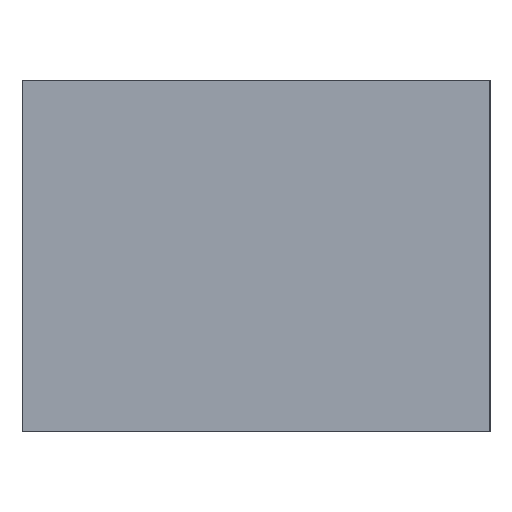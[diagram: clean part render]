
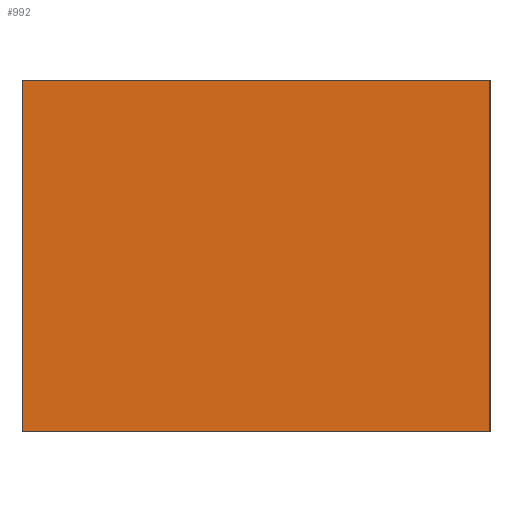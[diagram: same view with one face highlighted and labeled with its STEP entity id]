
A CAD part, left-side view. The second image highlights one B-rep face of the part: STEP entity #992.
In plain terms, the highlighted planar face has unit normal (1, 0, 0).
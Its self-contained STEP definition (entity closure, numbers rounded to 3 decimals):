
#953=CARTESIAN_POINT('Axis2P3D Location',(-31.5,0.,0.)) ;
#958=CARTESIAN_POINT('Line Origine',(-31.5,0.,-15.)) ;
#962=CARTESIAN_POINT('Vertex',(-31.5,-10.,-15.)) ;
#964=CARTESIAN_POINT('Vertex',(-31.5,10.,-15.)) ;
#967=CARTESIAN_POINT('Line Origine',(-31.5,10.,-7.5)) ;
#971=CARTESIAN_POINT('Vertex',(-31.5,10.,0.)) ;
#974=CARTESIAN_POINT('Line Origine',(-31.5,0.,0.)) ;
#978=CARTESIAN_POINT('Vertex',(-31.5,-10.,0.)) ;
#981=CARTESIAN_POINT('Line Origine',(-31.5,-10.,-7.5)) ;
#954=DIRECTION('Axis2P3D Direction',(1.,0.,0.)) ;
#955=DIRECTION('Axis2P3D XDirection',(0.,1.,0.)) ;
#959=DIRECTION('Vector Direction',(0.,1.,0.)) ;
#968=DIRECTION('Vector Direction',(0.,0.,1.)) ;
#975=DIRECTION('Vector Direction',(0.,-1.,0.)) ;
#982=DIRECTION('Vector Direction',(0.,0.,-1.)) ;
#956=AXIS2_PLACEMENT_3D('Plane Axis2P3D',#953,#954,#955) ;
#987=ORIENTED_EDGE('',*,*,#966,.T.) ;
#988=ORIENTED_EDGE('',*,*,#973,.T.) ;
#989=ORIENTED_EDGE('',*,*,#980,.T.) ;
#990=ORIENTED_EDGE('',*,*,#985,.T.) ;
#960=VECTOR('Line Direction',#959,1.) ;
#969=VECTOR('Line Direction',#968,1.) ;
#976=VECTOR('Line Direction',#975,1.) ;
#983=VECTOR('Line Direction',#982,1.) ;
#992=ADVANCED_FACE('MANIFOLD_SOLID_BREP #1750',(#991),#957,.T.) ;
#966=EDGE_CURVE('',#963,#965,#961,.T.) ;
#973=EDGE_CURVE('',#965,#972,#970,.T.) ;
#980=EDGE_CURVE('',#972,#979,#977,.T.) ;
#985=EDGE_CURVE('',#979,#963,#984,.T.) ;
#986=EDGE_LOOP('',(#987,#988,#989,#990)) ;
#991=FACE_OUTER_BOUND('',#986,.T.) ;
#961=LINE('Line',#958,#960) ;
#970=LINE('Line',#967,#969) ;
#977=LINE('Line',#974,#976) ;
#984=LINE('Line',#981,#983) ;
#957=PLANE('Plane',#956) ;
#963=VERTEX_POINT('',#962) ;
#965=VERTEX_POINT('',#964) ;
#972=VERTEX_POINT('',#971) ;
#979=VERTEX_POINT('',#978) ;
